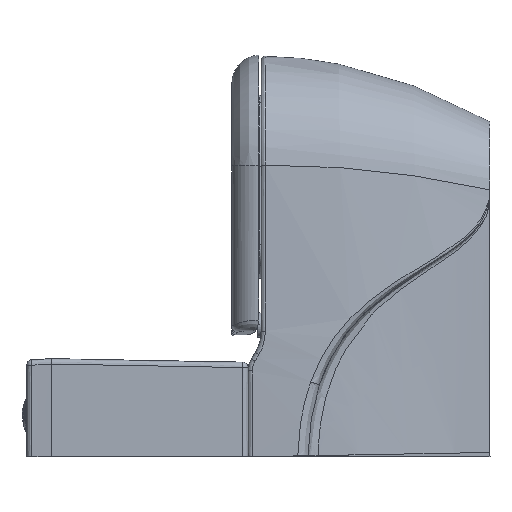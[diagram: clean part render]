
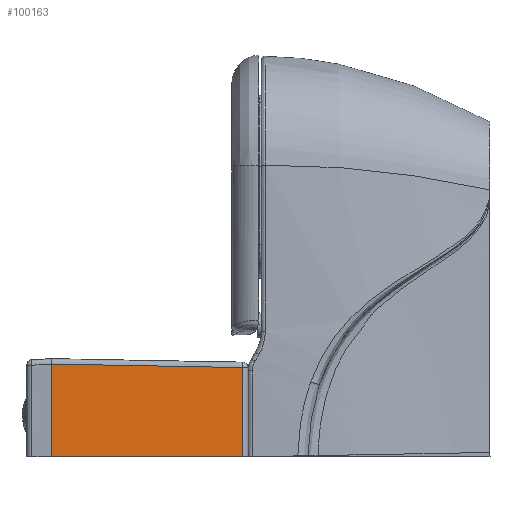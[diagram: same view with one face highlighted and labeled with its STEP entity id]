
A CAD part, left-side view. The second image highlights one B-rep face of the part: STEP entity #100163.
In plain terms, the highlighted free-form (B-spline) face has degree [3, 3] with [5, 4] control points.
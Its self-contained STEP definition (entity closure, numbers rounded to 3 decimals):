
#1020 = CARTESIAN_POINT ( 'NONE',  ( -214.347, 385., -224.313 ) ) ;
#1331 = CARTESIAN_POINT ( 'NONE',  ( -209.779, 33.862, -367.5 ) ) ;
#2254 = CARTESIAN_POINT ( 'NONE',  ( -210.766, 125.641, -202.018 ) ) ;
#6410 = FACE_OUTER_BOUND ( 'NONE', #56181, .T. ) ;
#9958 = B_SPLINE_CURVE_WITH_KNOTS ( 'NONE', 3,
 ( #17163, #27844, #57560, #1020, #10930 ),
 .UNSPECIFIED., .F., .F.,
 ( 4, 1, 4 ),
 ( 0., 0.089, 0.17 ),
 .UNSPECIFIED. ) ;
#10718 = VERTEX_POINT ( 'NONE', #42725 ) ;
#10930 = CARTESIAN_POINT ( 'NONE',  ( -214.36, 385., -197.277 ) ) ;
#16486 = CARTESIAN_POINT ( 'NONE',  ( -214.376, 385., -276.583 ) ) ;
#17163 = CARTESIAN_POINT ( 'NONE',  ( -214.642, 385., -367.483 ) ) ;
#18919 = CARTESIAN_POINT ( 'NONE',  ( -209.642, 24., -367.5 ) ) ;
#21613 = CARTESIAN_POINT ( 'NONE',  ( -210.342, 95.048, -202.577 ) ) ;
#22417 = CARTESIAN_POINT ( 'NONE',  ( -209.494, 33.861, -203.695 ) ) ;
#25551 = CARTESIAN_POINT ( 'NONE',  ( -214.369, 385., -183.886 ) ) ;
#27175 = CARTESIAN_POINT ( 'NONE',  ( -211.309, 144.333, -367.494 ) ) ;
#27844 = CARTESIAN_POINT ( 'NONE',  ( -214.544, 385., -337.784 ) ) ;
#31191 = ORIENTED_EDGE ( 'NONE', *, *, #119638, .T. ) ;
#34599 = CARTESIAN_POINT ( 'NONE',  ( -211.032, 144.333, -188.369 ) ) ;
#35003 = CARTESIAN_POINT ( 'NONE',  ( -209.343, 24., -220.962 ) ) ;
#37043 = CARTESIAN_POINT ( 'NONE',  ( -212.976, 264.667, -367.489 ) ) ;
#37861 = CARTESIAN_POINT ( 'NONE',  ( -212.878, 264.667, -338.148 ) ) ;
#42631 = B_SPLINE_SURFACE_WITH_KNOTS ( 'NONE', 3, 3, ( 
 ( #63117, #34599, #82121, #25551 ),
 ( #35003, #101126, #44516, #82522 ),
 ( #54051, #120097, #73029, #16486 ),
 ( #56911, #112219, #37861, #55685 ),
 ( #18919, #27175, #37043, #94892 ) ),
 .UNSPECIFIED., .F., .F., .F.,
 ( 4, 1, 4 ),
 ( 4, 4 ),
 ( 0.852, 0.928, 1. ),
 ( 0., 1. ),
 .UNSPECIFIED. ) ;
#42725 = CARTESIAN_POINT ( 'NONE',  ( -209.494, 33.861, -203.695 ) ) ;
#43107 = EDGE_CURVE ( 'NONE', #114297, #44982, #9958, .T. ) ;
#44516 = CARTESIAN_POINT ( 'NONE',  ( -212.675, 264.667, -217.248 ) ) ;
#44982 = VERTEX_POINT ( 'NONE', #64896 ) ;
#45841 = CARTESIAN_POINT ( 'NONE',  ( -209.494, 33.861, -203.695 ) ) ;
#47448 = CARTESIAN_POINT ( 'NONE',  ( -212.142, 204.5, -367.492 ) ) ;
#47495 = VECTOR ( 'NONE', #56979, 1000. ) ;
#52930 = VERTEX_POINT ( 'NONE', #1331 ) ;
#54051 = CARTESIAN_POINT ( 'NONE',  ( -209.384, 24., -279.925 ) ) ;
#55685 = CARTESIAN_POINT ( 'NONE',  ( -214.544, 385., -337.784 ) ) ;
#56181 = EDGE_LOOP ( 'NONE', ( #102117, #63314, #31191, #118756 ) ) ;
#56416 = LINE ( 'NONE', #47448, #47495 ) ;
#56911 = CARTESIAN_POINT ( 'NONE',  ( -209.547, 24., -338.887 ) ) ;
#56979 = DIRECTION ( 'NONE',  ( -0.014, 1., 0. ) ) ;
#57560 = CARTESIAN_POINT ( 'NONE',  ( -214.388, 385., -281.047 ) ) ;
#60379 = CARTESIAN_POINT ( 'NONE',  ( -214.36, 385., -197.277 ) ) ;
#63117 = CARTESIAN_POINT ( 'NONE',  ( -209.364, 24., -190.611 ) ) ;
#63314 = ORIENTED_EDGE ( 'NONE', *, *, #93084, .T. ) ;
#64896 = CARTESIAN_POINT ( 'NONE',  ( -214.36, 385., -197.277 ) ) ;
#65217 = CARTESIAN_POINT ( 'NONE',  ( -209.478, 33.862, -258.296 ) ) ;
#68235 = CARTESIAN_POINT ( 'NONE',  ( -212.037, 217.421, -200.34 ) ) ;
#68664 = CARTESIAN_POINT ( 'NONE',  ( -211.614, 186.828, -200.899 ) ) ;
#69059 = CARTESIAN_POINT ( 'NONE',  ( -209.918, 64.455, -203.136 ) ) ;
#69454 = CARTESIAN_POINT ( 'NONE',  ( -213.586, 329.14, -198.298 ) ) ;
#70330 = CARTESIAN_POINT ( 'NONE',  ( -214.642, 385., -367.483 ) ) ;
#73029 = CARTESIAN_POINT ( 'NONE',  ( -212.712, 264.667, -277.697 ) ) ;
#73899 = CARTESIAN_POINT ( 'NONE',  ( -209.779, 33.862, -367.5 ) ) ;
#77779 = CARTESIAN_POINT ( 'NONE',  ( -212.812, 273.281, -199.319 ) ) ;
#79904 = B_SPLINE_CURVE_WITH_KNOTS ( 'NONE', 3,
 ( #22417, #69059, #21613, #2254, #87673, #68664, #68235, #77779, #69454, #60379 ),
 .UNSPECIFIED., .F., .F.,
 ( 4, 3, 3, 4 ),
 ( 0., 0.092, 0.184, 0.351 ),
 .UNSPECIFIED. ) ;
#82121 = CARTESIAN_POINT ( 'NONE',  ( -212.7, 264.667, -186.128 ) ) ;
#82522 = CARTESIAN_POINT ( 'NONE',  ( -214.341, 385., -215.386 ) ) ;
#87673 = CARTESIAN_POINT ( 'NONE',  ( -211.19, 156.234, -201.458 ) ) ;
#88105 = B_SPLINE_CURVE_WITH_KNOTS ( 'NONE', 3,
 ( #73899, #111900, #65217, #45841 ),
 .UNSPECIFIED., .F., .F.,
 ( 4, 4 ),
 ( 0., 0.164 ),
 .UNSPECIFIED. ) ;
#93084 = EDGE_CURVE ( 'NONE', #52930, #10718, #88105, .T. ) ;
#94892 = CARTESIAN_POINT ( 'NONE',  ( -214.642, 385., -367.483 ) ) ;
#100163 = ADVANCED_FACE ( 'NONE', ( #6410 ), #42631, .F. ) ;
#101126 = CARTESIAN_POINT ( 'NONE',  ( -211.009, 144.333, -219.099 ) ) ;
#102117 = ORIENTED_EDGE ( 'NONE', *, *, #121127, .F. ) ;
#111900 = CARTESIAN_POINT ( 'NONE',  ( -209.598, 33.862, -312.898 ) ) ;
#112219 = CARTESIAN_POINT ( 'NONE',  ( -211.213, 144.333, -338.523 ) ) ;
#114297 = VERTEX_POINT ( 'NONE', #70330 ) ;
#118756 = ORIENTED_EDGE ( 'NONE', *, *, #43107, .F. ) ;
#119638 = EDGE_CURVE ( 'NONE', #10718, #44982, #79904, .T. ) ;
#120097 = CARTESIAN_POINT ( 'NONE',  ( -211.048, 144.333, -278.811 ) ) ;
#121127 = EDGE_CURVE ( 'NONE', #52930, #114297, #56416, .T. ) ;
